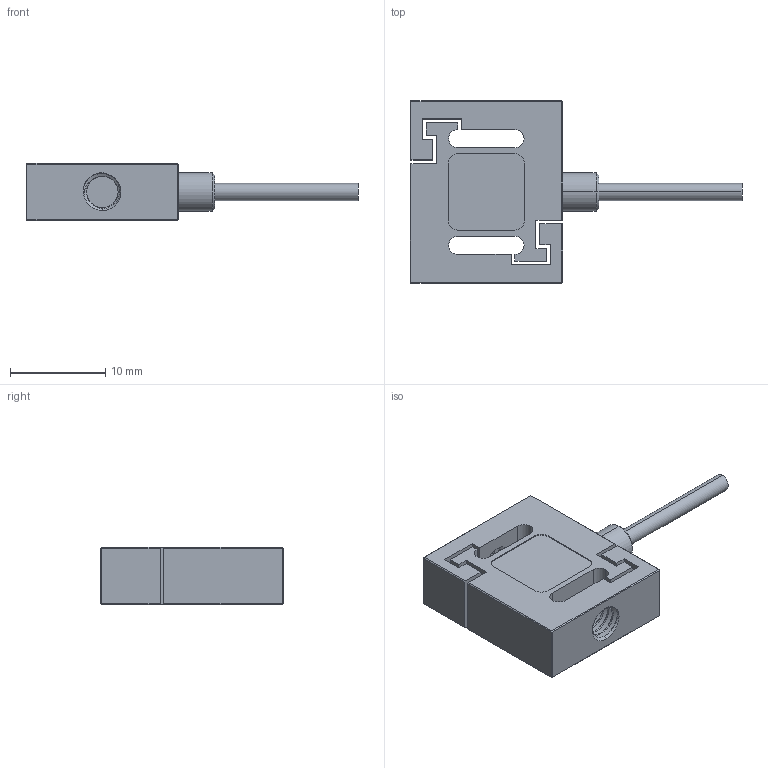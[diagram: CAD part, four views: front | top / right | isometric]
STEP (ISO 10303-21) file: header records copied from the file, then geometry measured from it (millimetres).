
FILE_DESCRIPTION (( 'STEP AP203' ), '1' );
FILE_NAME ('LCS03.STEP', '2024-07-16T04:38:39', ( '' ), ( '' ), 'SwSTEP 2.0', 'SolidWorks 2019', '' );
FILE_SCHEMA (( 'CONFIG_CONTROL_DESIGN' ));
Length unit declared in the file: millimetre
Products named in the file (1): LCS03
Bounding box: 34.8 x 19.1 x 6 mm (x, y, z)
Volume: 1612.3 mm3; surface area: 1656.9 mm2
Topology: 1 solids, 1 shells, 124 faces, 324 edges, 206 vertices
Faces by surface type: plane 74, cylinder 36, cone 8, bspline 6
Entity records: 6227 total; most frequent: CARTESIAN_POINT 3218, ORIENTED_EDGE 648, DIRECTION 556, EDGE_CURVE 324, LINE 214, VECTOR 214, VERTEX_POINT 206, AXIS2_PLACEMENT_3D 171
